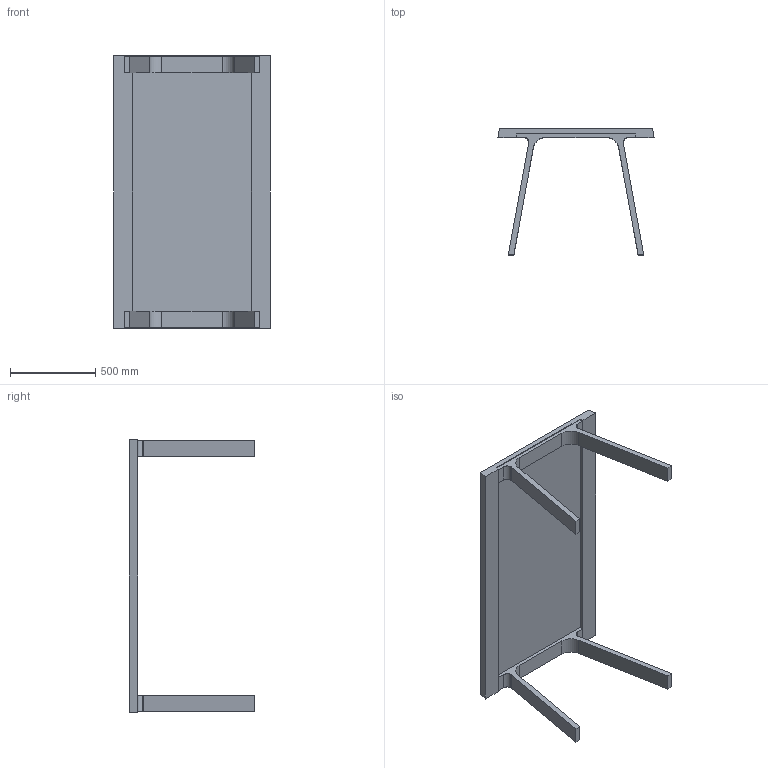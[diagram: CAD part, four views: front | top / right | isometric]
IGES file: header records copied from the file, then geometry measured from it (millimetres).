
Start section: SolidWorks IGES file using analytic representation for surfaces
Global section: file name: G:\Product Info\Doble\3D\solidworks\Doble 160x90x74.IGS; native system: SolidWorks 2008; preprocessor: SolidWorks 2008; author: remko; date: 080826.135747; units: millimetre
Bounding box: 917.63 x 740 x 1600 mm (x, y, z)
Surface area: 4089591.6 mm2 (no closed solid volume)
Topology: 0 solids, 0 shells, 46 faces, 356 edges, 356 vertices
Faces by surface type: bspline 36, revolution 10
